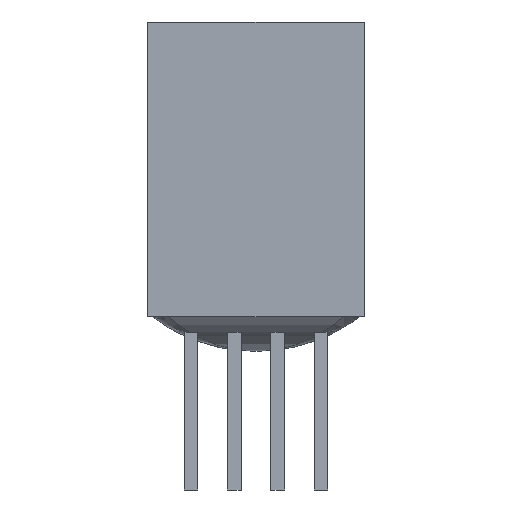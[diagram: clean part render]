
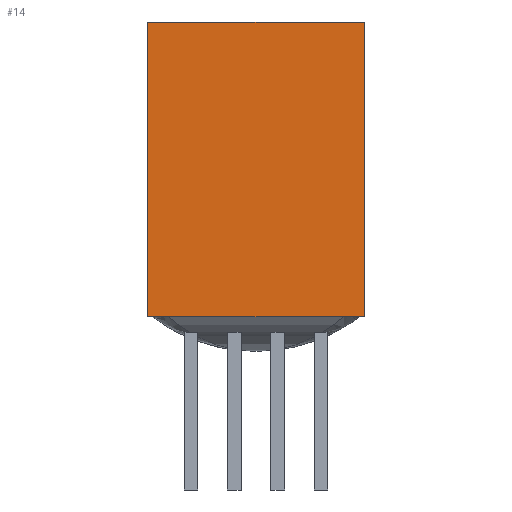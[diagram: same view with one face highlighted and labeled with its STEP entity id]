
A CAD part, front view. The second image highlights one B-rep face of the part: STEP entity #14.
In plain terms, the highlighted planar face has unit normal (0, -1, 0).
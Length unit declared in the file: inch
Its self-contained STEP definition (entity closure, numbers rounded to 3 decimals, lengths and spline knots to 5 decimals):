
#14 = ADVANCED_FACE ( 'NONE', ( #2056 ), #2597, .F. ) ;
#180 = CARTESIAN_POINT ( 'NONE',  ( 0.0625, 0., 0. ) ) ;
#312 = ORIENTED_EDGE ( 'NONE', *, *, #365, .F. ) ;
#322 = VERTEX_POINT ( 'NONE', #1008 ) ;
#365 = EDGE_CURVE ( 'NONE', #322, #1601, #2411, .T. ) ;
#470 = CARTESIAN_POINT ( 'NONE',  ( -0.0625, 0., 0.17 ) ) ;
#540 = EDGE_CURVE ( 'NONE', #322, #1288, #2067, .T. ) ;
#726 = DIRECTION ( 'NONE',  ( -1., 0., 0. ) ) ;
#827 = VECTOR ( 'NONE', #2357, 39.37008 ) ;
#894 = VECTOR ( 'NONE', #726, 39.37008 ) ;
#996 = LINE ( 'NONE', #1527, #2629 ) ;
#1008 = CARTESIAN_POINT ( 'NONE',  ( 0.0625, 0., 0.17 ) ) ;
#1036 = DIRECTION ( 'NONE',  ( 0., 1., 0. ) ) ;
#1046 = EDGE_CURVE ( 'NONE', #1288, #1762, #996, .T. ) ;
#1274 = CARTESIAN_POINT ( 'NONE',  ( -0.0625, 0., 0. ) ) ;
#1288 = VERTEX_POINT ( 'NONE', #470 ) ;
#1305 = DIRECTION ( 'NONE',  ( 0., 0., -1. ) ) ;
#1390 = LINE ( 'NONE', #2349, #827 ) ;
#1474 = CARTESIAN_POINT ( 'NONE',  ( 0.0625, 0., 0. ) ) ;
#1527 = CARTESIAN_POINT ( 'NONE',  ( -0.0625, 0., 0. ) ) ;
#1601 = VERTEX_POINT ( 'NONE', #2160 ) ;
#1762 = VERTEX_POINT ( 'NONE', #1274 ) ;
#1825 = VECTOR ( 'NONE', #1908, 39.37008 ) ;
#1908 = DIRECTION ( 'NONE',  ( 0., 0., -1. ) ) ;
#1946 = AXIS2_PLACEMENT_3D ( 'NONE', #180, #1036, #2360 ) ;
#2056 = FACE_OUTER_BOUND ( 'NONE', #2527, .T. ) ;
#2067 = LINE ( 'NONE', #2741, #894 ) ;
#2160 = CARTESIAN_POINT ( 'NONE',  ( 0.0625, 0., 0. ) ) ;
#2349 = CARTESIAN_POINT ( 'NONE',  ( 0.0625, 0., 0. ) ) ;
#2357 = DIRECTION ( 'NONE',  ( -1., 0., 0. ) ) ;
#2360 = DIRECTION ( 'NONE',  ( 0., 0., 1. ) ) ;
#2383 = ORIENTED_EDGE ( 'NONE', *, *, #540, .T. ) ;
#2411 = LINE ( 'NONE', #1474, #1825 ) ;
#2512 = EDGE_CURVE ( 'NONE', #1601, #1762, #1390, .T. ) ;
#2527 = EDGE_LOOP ( 'NONE', ( #2559, #2618, #312, #2383 ) ) ;
#2559 = ORIENTED_EDGE ( 'NONE', *, *, #1046, .T. ) ;
#2597 = PLANE ( 'NONE',  #1946 ) ;
#2618 = ORIENTED_EDGE ( 'NONE', *, *, #2512, .F. ) ;
#2629 = VECTOR ( 'NONE', #1305, 39.37008 ) ;
#2741 = CARTESIAN_POINT ( 'NONE',  ( 0.0625, 0., 0.17 ) ) ;
